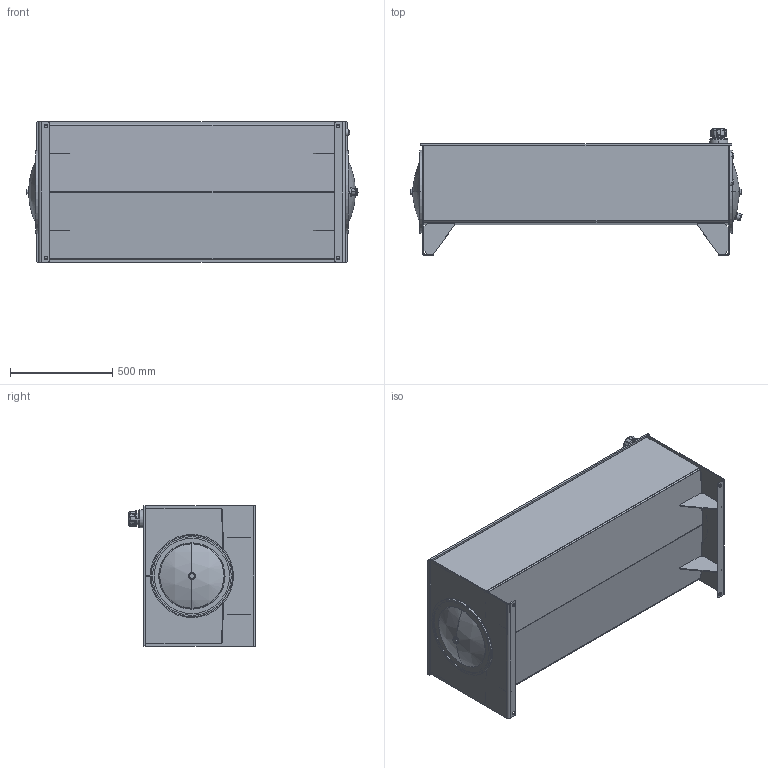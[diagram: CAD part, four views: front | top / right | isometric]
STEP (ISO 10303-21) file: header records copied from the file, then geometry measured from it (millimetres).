
FILE_DESCRIPTION (( 'STEP AP203' ), '1' );
FILE_NAME ('RJIC080-FT.STEP', '2015-01-07T16:43:03', ( '' ), ( '' ), 'SwSTEP 2.0', 'SolidWorks 2014', '' );
FILE_SCHEMA (( 'CONFIG_CONTROL_DESIGN' ));
Length unit declared in the file: inch
Products named in the file (1): RJIC080-FT
Bounding box: 1624.13 x 621.03 x 685.8 mm (x, y, z)
Volume: 22924246.6 mm3; surface area: 9777519.4 mm2
Topology: 24 solids, 24 shells, 741 faces, 1741 edges, 1052 vertices
Faces by surface type: cylinder 266, plane 248, cone 84, torus 63, bspline 48, sphere 32
Entity records: 24266 total; most frequent: CARTESIAN_POINT 6984, DIRECTION 3786, ORIENTED_EDGE 3458, EDGE_CURVE 1729, AXIS2_PLACEMENT_3D 1511, VERTEX_POINT 1052, EDGE_LOOP 849, CIRCLE 817
